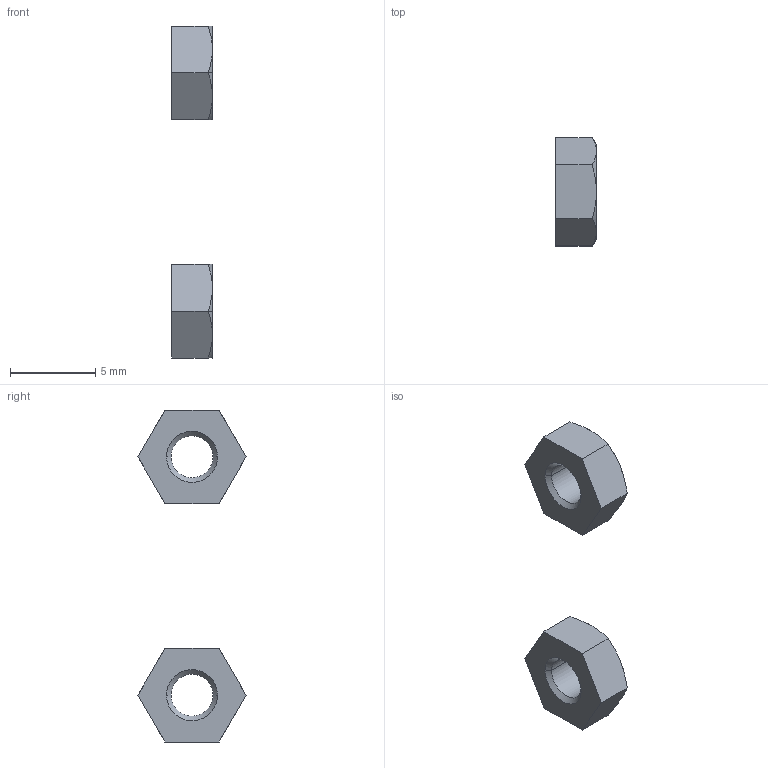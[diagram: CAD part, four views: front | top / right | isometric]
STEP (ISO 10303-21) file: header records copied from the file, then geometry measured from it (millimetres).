
FILE_DESCRIPTION(/* description */ (''),/* implementation_level */ '2;1');
FILE_NAME(/* name */ '6.y-drive#6.12#LBNR3',/* time_stamp */ '2014-12-01T20:16:42+01:00',/* author */ (''),/* organization */ (''),/* preprocessor_version */ 'ST-DEVELOPER v14',/* originating_system */ '',/* authorisation */ '');
FILE_SCHEMA (('AUTOMOTIVE_DESIGN'));
Length unit declared in the file: millimetre
Products named in the file (1): Document
Bounding box: 2.4 x 6.35 x 19.5 mm (x, y, z)
Volume: 101.3 mm3; surface area: 207.3 mm2
Topology: 2 solids, 2 shells, 44 faces, 96 edges, 56 vertices
Faces by surface type: bspline 28, plane 16
Entity records: 2689 total; most frequent: CARTESIAN_POINT 1449, ORIENTED_EDGE 192, PCURVE 192, DEFINITIONAL_REPRESENTATION 192, B_SPLINE_CURVE_WITH_KNOTS 184, SURFACE_CURVE 96, EDGE_CURVE 96, VERTEX_POINT 56
